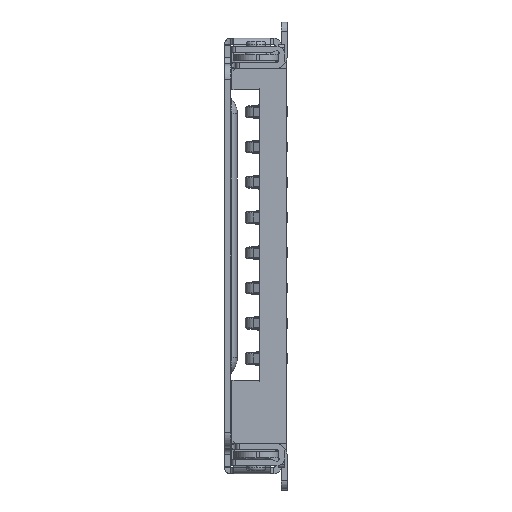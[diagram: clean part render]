
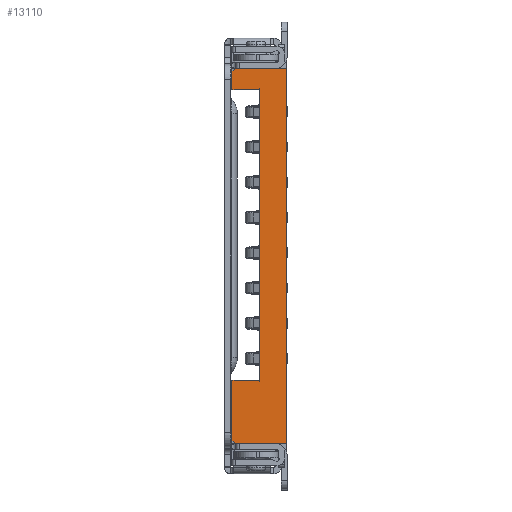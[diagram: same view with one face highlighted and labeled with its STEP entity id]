
A CAD part, left-side view. The second image highlights one B-rep face of the part: STEP entity #13110.
In plain terms, the highlighted planar face has unit normal (-1, 0, 0).
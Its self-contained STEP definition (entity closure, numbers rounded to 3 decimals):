
#856 = CARTESIAN_POINT ( 'NONE',  ( -6.65, 0.84, -3.88 ) ) ;
#1406 = DIRECTION ( 'NONE',  ( 0., 0., -1. ) ) ;
#1639 = DIRECTION ( 'NONE',  ( 0., 1., 0. ) ) ;
#1854 = ORIENTED_EDGE ( 'NONE', *, *, #28285, .F. ) ;
#2009 = ORIENTED_EDGE ( 'NONE', *, *, #27881, .T. ) ;
#2372 = CARTESIAN_POINT ( 'NONE',  ( -6.65, 0.85, -3.88 ) ) ;
#3080 = EDGE_CURVE ( 'NONE', #18720, #40186, #47717, .T. ) ;
#3938 = EDGE_CURVE ( 'NONE', #42639, #50561, #31065, .T. ) ;
#4661 = VECTOR ( 'NONE', #10405, 1000. ) ;
#5225 = DIRECTION ( 'NONE',  ( 0., -1., 0. ) ) ;
#6902 = DIRECTION ( 'NONE',  ( 0., -0.707, -0.707 ) ) ;
#6936 = FACE_OUTER_BOUND ( 'NONE', #45646, .T. ) ;
#7109 = CARTESIAN_POINT ( 'NONE',  ( -6.65, 1.7, 0. ) ) ;
#9343 = VECTOR ( 'NONE', #41691, 1000. ) ;
#10353 = CARTESIAN_POINT ( 'NONE',  ( -6.65, 1.6, -5.85 ) ) ;
#10405 = DIRECTION ( 'NONE',  ( 0., -1., 0. ) ) ;
#11157 = ORIENTED_EDGE ( 'NONE', *, *, #28473, .F. ) ;
#11575 = EDGE_CURVE ( 'NONE', #34885, #16009, #30176, .T. ) ;
#12633 = ORIENTED_EDGE ( 'NONE', *, *, #43137, .T. ) ;
#13110 = ADVANCED_FACE ( 'NONE', ( #6936 ), #18641, .T. ) ;
#13227 = CARTESIAN_POINT ( 'NONE',  ( -6.65, 0., -5.85 ) ) ;
#14458 = EDGE_CURVE ( 'NONE', #38012, #34885, #19621, .T. ) ;
#14641 = VECTOR ( 'NONE', #5225, 1000. ) ;
#16009 = VERTEX_POINT ( 'NONE', #856 ) ;
#18493 = CARTESIAN_POINT ( 'NONE',  ( -6.65, 1.7, 0. ) ) ;
#18549 = VECTOR ( 'NONE', #27635, 1000. ) ;
#18641 = PLANE ( 'NONE',  #43914 ) ;
#18720 = VERTEX_POINT ( 'NONE', #13227 ) ;
#19621 = LINE ( 'NONE', #7109, #28664 ) ;
#19755 = VECTOR ( 'NONE', #42603, 1000. ) ;
#19985 = LINE ( 'NONE', #36290, #34204 ) ;
#20327 = CARTESIAN_POINT ( 'NONE',  ( -6.65, 1.7, -5.75 ) ) ;
#21490 = LINE ( 'NONE', #24974, #14641 ) ;
#21577 = CARTESIAN_POINT ( 'NONE',  ( -6.65, 1.7, 5.18 ) ) ;
#22165 = LINE ( 'NONE', #25378, #9343 ) ;
#22628 = LINE ( 'NONE', #38930, #49636 ) ;
#22910 = VECTOR ( 'NONE', #1406, 1000. ) ;
#24974 = CARTESIAN_POINT ( 'NONE',  ( -6.65, 0.85, 5.85 ) ) ;
#25378 = CARTESIAN_POINT ( 'NONE',  ( -6.65, 1.65, 5.8 ) ) ;
#26545 = LINE ( 'NONE', #47403, #19755 ) ;
#26666 = CARTESIAN_POINT ( 'NONE',  ( -6.65, 0., -5.85 ) ) ;
#27082 = EDGE_CURVE ( 'NONE', #40782, #50561, #37984, .T. ) ;
#27634 = VERTEX_POINT ( 'NONE', #47546 ) ;
#27635 = DIRECTION ( 'NONE',  ( 0., 1., 0. ) ) ;
#27881 = EDGE_CURVE ( 'NONE', #18720, #27634, #19985, .T. ) ;
#28285 = EDGE_CURVE ( 'NONE', #41474, #27634, #21490, .T. ) ;
#28473 = EDGE_CURVE ( 'NONE', #16009, #40782, #26545, .T. ) ;
#28551 = CARTESIAN_POINT ( 'NONE',  ( -6.65, 0.84, 5.18 ) ) ;
#28664 = VECTOR ( 'NONE', #31923, 1000. ) ;
#30176 = LINE ( 'NONE', #2372, #4661 ) ;
#31065 = LINE ( 'NONE', #18493, #22910 ) ;
#31923 = DIRECTION ( 'NONE',  ( 0., 0., 1. ) ) ;
#34204 = VECTOR ( 'NONE', #48606, 1000. ) ;
#34692 = DIRECTION ( 'NONE',  ( -1., 0., 0. ) ) ;
#34885 = VERTEX_POINT ( 'NONE', #49248 ) ;
#35671 = CARTESIAN_POINT ( 'NONE',  ( -6.65, 0.85, -5.85 ) ) ;
#35927 = VECTOR ( 'NONE', #1639, 1000. ) ;
#36290 = CARTESIAN_POINT ( 'NONE',  ( -6.65, 0., -5.85 ) ) ;
#37771 = ORIENTED_EDGE ( 'NONE', *, *, #11575, .F. ) ;
#37984 = LINE ( 'NONE', #46540, #35927 ) ;
#38012 = VERTEX_POINT ( 'NONE', #20327 ) ;
#38469 = ORIENTED_EDGE ( 'NONE', *, *, #14458, .F. ) ;
#38930 = CARTESIAN_POINT ( 'NONE',  ( -6.65, 1.65, -5.8 ) ) ;
#39518 = ORIENTED_EDGE ( 'NONE', *, *, #3080, .F. ) ;
#40186 = VERTEX_POINT ( 'NONE', #10353 ) ;
#40782 = VERTEX_POINT ( 'NONE', #28551 ) ;
#41474 = VERTEX_POINT ( 'NONE', #43673 ) ;
#41691 = DIRECTION ( 'NONE',  ( 0., 0.707, -0.707 ) ) ;
#42603 = DIRECTION ( 'NONE',  ( 0., 0., 1. ) ) ;
#42639 = VERTEX_POINT ( 'NONE', #47620 ) ;
#43137 = EDGE_CURVE ( 'NONE', #41474, #42639, #22165, .T. ) ;
#43673 = CARTESIAN_POINT ( 'NONE',  ( -6.65, 1.6, 5.85 ) ) ;
#43914 = AXIS2_PLACEMENT_3D ( 'NONE', #26666, #34692, #50998 ) ;
#45646 = EDGE_LOOP ( 'NONE', ( #49369, #51746, #11157, #37771, #38469, #46910, #39518, #2009, #1854, #12633 ) ) ;
#46540 = CARTESIAN_POINT ( 'NONE',  ( -6.65, 0.85, 5.18 ) ) ;
#46910 = ORIENTED_EDGE ( 'NONE', *, *, #50674, .T. ) ;
#47403 = CARTESIAN_POINT ( 'NONE',  ( -6.65, 0.84, 0. ) ) ;
#47546 = CARTESIAN_POINT ( 'NONE',  ( -6.65, 0., 5.85 ) ) ;
#47620 = CARTESIAN_POINT ( 'NONE',  ( -6.65, 1.7, 5.75 ) ) ;
#47717 = LINE ( 'NONE', #35671, #18549 ) ;
#48606 = DIRECTION ( 'NONE',  ( 0., 0., 1. ) ) ;
#49248 = CARTESIAN_POINT ( 'NONE',  ( -6.65, 1.7, -3.88 ) ) ;
#49369 = ORIENTED_EDGE ( 'NONE', *, *, #3938, .T. ) ;
#49636 = VECTOR ( 'NONE', #6902, 1000. ) ;
#50561 = VERTEX_POINT ( 'NONE', #21577 ) ;
#50674 = EDGE_CURVE ( 'NONE', #38012, #40186, #22628, .T. ) ;
#50998 = DIRECTION ( 'NONE',  ( 0., 0., 1. ) ) ;
#51746 = ORIENTED_EDGE ( 'NONE', *, *, #27082, .F. ) ;
